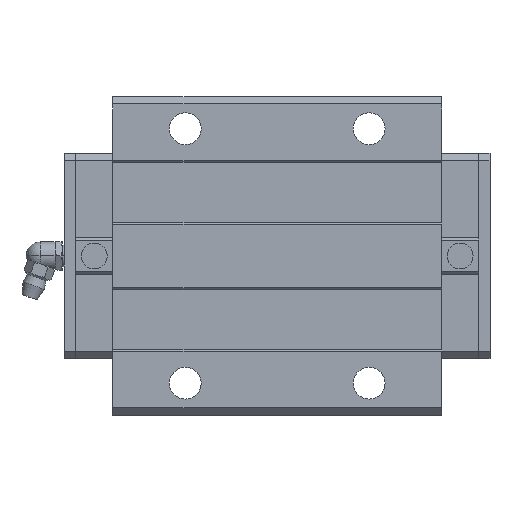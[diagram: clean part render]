
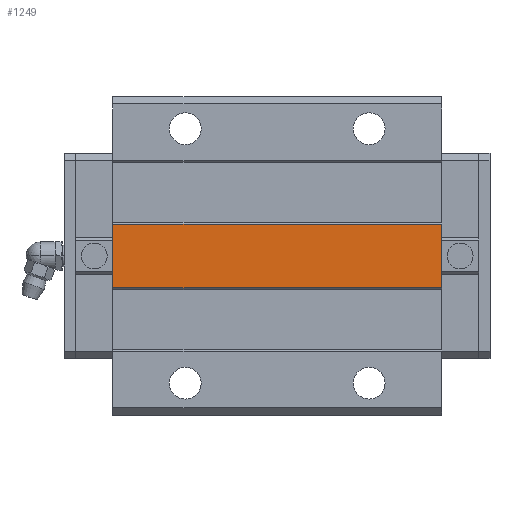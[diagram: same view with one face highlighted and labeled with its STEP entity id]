
A CAD part, top view. The second image highlights one B-rep face of the part: STEP entity #1249.
In plain terms, the highlighted planar face has unit normal (0, 0, 1).
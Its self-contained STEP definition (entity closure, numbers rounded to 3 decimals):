
#1188=CARTESIAN_POINT('POINT83',(106.7,-9.,
   36.));
#1189=VERTEX_POINT('VERTEX83',#1188);
#1196=CARTESIAN_POINT('POINT84',(13.7,-9.,
   36.));
#1197=VERTEX_POINT('VERTEX84',#1196);
#1198=CARTESIAN_POINT('POS117',(13.7,-9.,
   36.));
#1199=DIRECTION('DIR165',(1.,0.,0.));
#1200=VECTOR('VEC69',#1199,1.);
#1201=LINE('STRAIGHT69',#1198,#1200);
#1202=EDGE_CURVE('EDGE112',#1197,#1189,#1201,.T.);
#1219=CARTESIAN_POINT('POINT85',(106.7,9.,36.));
#1220=VERTEX_POINT('VERTEX85',#1219);
#1221=CARTESIAN_POINT('POS120',(106.7,0.,36.));
#1222=DIRECTION('DIR169',(0.,1.,0.));
#1223=VECTOR('VEC71',#1222,1.);
#1224=LINE('STRAIGHT71',#1221,#1223);
#1225=EDGE_CURVE('EDGE114',#1189,#1220,#1224,.T.);
#1226=ORIENTED_EDGE('COEDGE171',*,*,#1225,.T.);
#1227=CARTESIAN_POINT('POINT86',(13.7,9.,36.));
#1228=VERTEX_POINT('VERTEX86',#1227);
#1229=CARTESIAN_POINT('POS121',(13.7,9.,36.));
#1230=DIRECTION('DIR170',(1.,0.,0.));
#1231=VECTOR('VEC72',#1230,1.);
#1232=LINE('STRAIGHT72',#1229,#1231);
#1233=EDGE_CURVE('EDGE115',#1228,#1220,#1232,.T.);
#1234=ORIENTED_EDGE('COEDGE172',*,*,#1233,.F.);
#1235=CARTESIAN_POINT('POS122',(13.7,0.,36.));
#1236=DIRECTION('DIR171',(0.,1.,0.));
#1237=VECTOR('VEC73',#1236,1.);
#1238=LINE('STRAIGHT73',#1235,#1237);
#1239=EDGE_CURVE('EDGE116',#1197,#1228,#1238,.T.);
#1240=ORIENTED_EDGE('COEDGE173',*,*,#1239,.F.);
#1241=ORIENTED_EDGE('COEDGE174',*,*,#1202,.T.);
#1242=EDGE_LOOP('NONE',(#1226,#1234,#1240,#1241));
#1243=FACE_BOUND('LOOP1',#1242,.T.);
#1244=CARTESIAN_POINT('POS123',(13.7,0.,36.));
#1245=DIRECTION('DIR172',(0.,0.,1.));
#1246=DIRECTION('DIR173',(1.,0.,0.));
#1247=AXIS2_PLACEMENT_3D('AXIS50',#1244,#1245,#1246);
#1248=PLANE('PLANE16',#1247);
#1249=ADVANCED_FACE('FACE34',(#1243),#1248,.T.);
